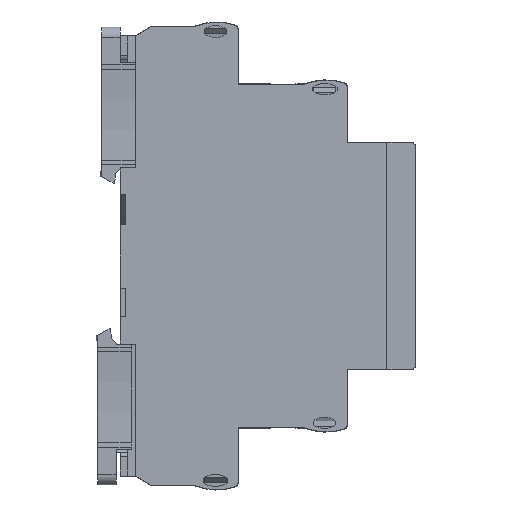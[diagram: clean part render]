
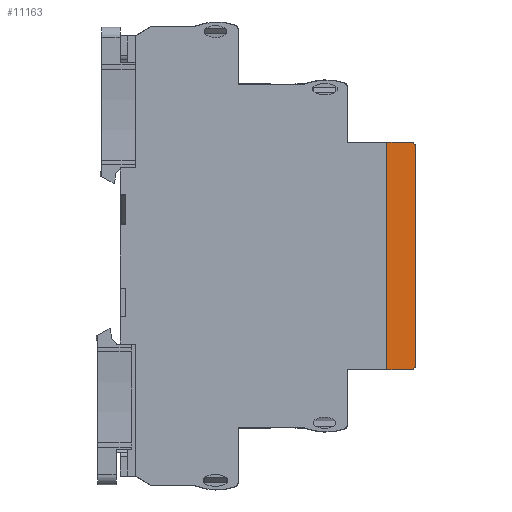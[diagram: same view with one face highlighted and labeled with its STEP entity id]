
A CAD part, front view. The second image highlights one B-rep face of the part: STEP entity #11163.
In plain terms, the highlighted planar face has unit normal (0, -1, 0) as drawn and (-1, 0, 0) by its records, which use the part's own axes.
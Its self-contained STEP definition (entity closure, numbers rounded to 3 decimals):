
#11163=ADVANCED_FACE('',(#75916),#75918,.T.);
#75916=FACE_BOUND('',#75917,.T.);
#75917=EDGE_LOOP('',(#125831,#125832,#125833,#125834,#125835,#125836));
#75918=PLANE('',#75919);
#75919=AXIS2_PLACEMENT_3D('',#75920,#75921,#75922);
#75920=CARTESIAN_POINT('',(-6.5,-22.6,1.5));
#75921=DIRECTION('',(-1.,0.,0.));
#75922=DIRECTION('',(0.,0.,1.));
#125831=ORIENTED_EDGE('',*,*,#170155,.T.);
#125832=ORIENTED_EDGE('',*,*,#170156,.T.);
#125833=ORIENTED_EDGE('',*,*,#170083,.F.);
#125834=ORIENTED_EDGE('',*,*,#170157,.T.);
#125835=ORIENTED_EDGE('',*,*,#170158,.F.);
#125836=ORIENTED_EDGE('',*,*,#170159,.T.);
#170083=EDGE_CURVE('',#193446,#193447,#193448,.T.);
#170155=EDGE_CURVE('',#193566,#193567,#193568,.T.);
#170156=EDGE_CURVE('',#193567,#193447,#193569,.T.);
#170157=EDGE_CURVE('',#193446,#193570,#193571,.T.);
#170158=EDGE_CURVE('',#193572,#193570,#193573,.T.);
#170159=EDGE_CURVE('',#193572,#193566,#193574,.T.);
#193446=VERTEX_POINT('',#235467);
#193447=VERTEX_POINT('',#235468);
#193448=LINE('',#235469,#235470);
#193566=VERTEX_POINT('',#235737);
#193567=VERTEX_POINT('',#235738);
#193568=LINE('',#235739,#235740);
#193569=CIRCLE('',#235742,1.);
#193570=VERTEX_POINT('',#235746);
#193571=CIRCLE('',#235747,1.);
#193572=VERTEX_POINT('',#235751);
#193573=LINE('',#235752,#235753);
#193574=LINE('',#235755,#235756);
#235467=CARTESIAN_POINT('',(-6.5,-21.6,0.));
#235468=CARTESIAN_POINT('',(-6.5,21.6,0.));
#235469=CARTESIAN_POINT('',(-6.5,-21.6,0.));
#235470=VECTOR('',#235471,1.);
#235471=DIRECTION('',(0.,1.,0.));
#235737=CARTESIAN_POINT('',(-6.5,22.6,5.75));
#235738=CARTESIAN_POINT('',(-6.5,22.6,1.));
#235739=CARTESIAN_POINT('',(-6.5,22.6,5.75));
#235740=VECTOR('',#235741,1.);
#235741=DIRECTION('',(0.,0.,-1.));
#235742=AXIS2_PLACEMENT_3D('',#235743,#235744,#235745);
#235743=CARTESIAN_POINT('',(-6.5,21.6,1.));
#235744=DIRECTION('',(-1.,0.,0.));
#235745=DIRECTION('',(0.,1.,0.));
#235746=CARTESIAN_POINT('',(-6.5,-22.6,1.));
#235747=AXIS2_PLACEMENT_3D('',#235748,#235749,#235750);
#235748=CARTESIAN_POINT('',(-6.5,-21.6,1.));
#235749=DIRECTION('',(-1.,0.,0.));
#235750=DIRECTION('',(0.,0.,-1.));
#235751=CARTESIAN_POINT('',(-6.5,-22.6,5.75));
#235752=CARTESIAN_POINT('',(-6.5,-22.6,5.75));
#235753=VECTOR('',#235754,1.);
#235754=DIRECTION('',(0.,0.,-1.));
#235755=CARTESIAN_POINT('',(-6.5,-22.6,5.75));
#235756=VECTOR('',#235757,1.);
#235757=DIRECTION('',(0.,1.,0.));
